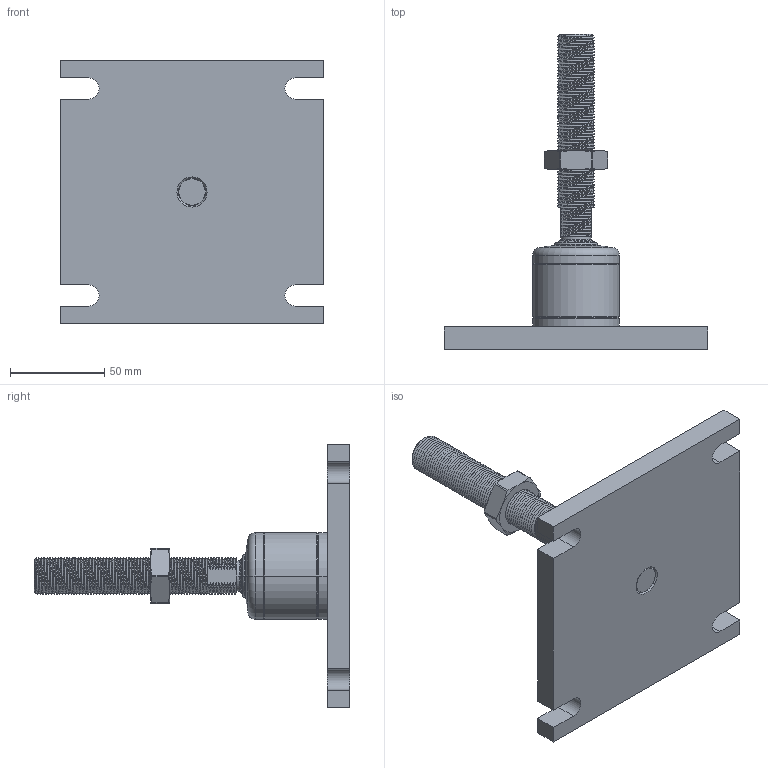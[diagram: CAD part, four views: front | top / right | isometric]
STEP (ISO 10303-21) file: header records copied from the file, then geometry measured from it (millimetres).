
FILE_DESCRIPTION((''),'2;1');
FILE_NAME('DEADSTAND_SLL210_STEM','2026-05-28T10:46:43',('wang-722'),(''),'CREO PARAMETRIC BY PTC INC, 2024401','CREO PARAMETRIC BY PTC INC, 2024401','');
FILE_SCHEMA(('CONFIG_CONTROL_DESIGN'));
Length unit declared in the file: millimetre
Products named in the file (1): DEADSTAND_SLL210_STEM
Bounding box: 140 x 167.69 x 140 mm (x, y, z)
Volume: 321756 mm3; surface area: 78120.7 mm2
Topology: 2 solids, 2 shells, 337 faces, 969 edges, 639 vertices
Faces by surface type: bspline 97, plane 94, cylinder 55, torus 45, cone 42, sphere 4
Entity records: 30235 total; most frequent: CARTESIAN_POINT 22371, ORIENTED_EDGE 1928, DIRECTION 1226, EDGE_CURVE 964, VERTEX_POINT 639, AXIS2_PLACEMENT_3D 487, B_SPLINE_CURVE_WITH_KNOTS 465, EDGE_LOOP 349
